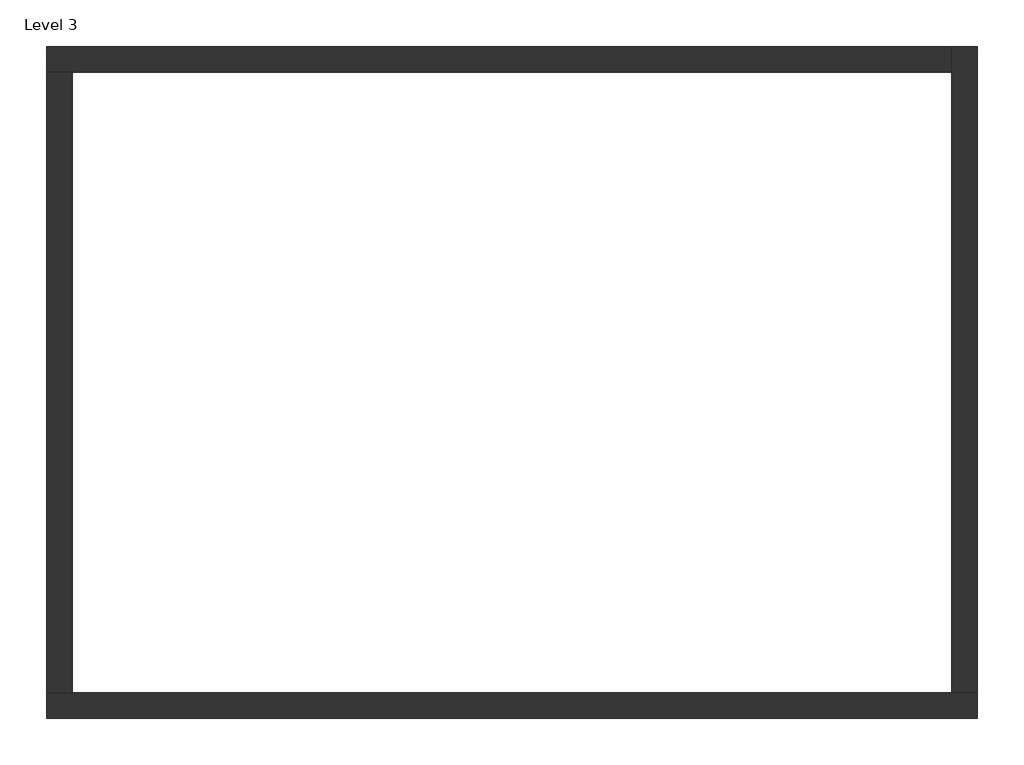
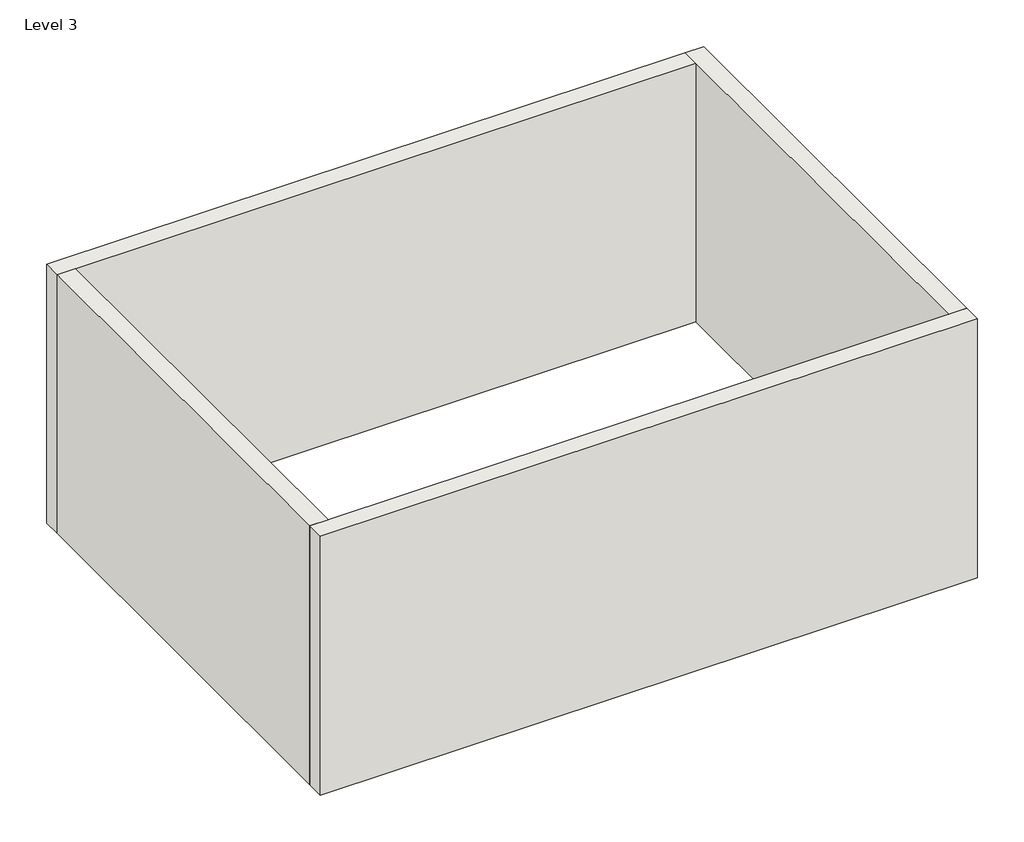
# One storey: 4 walls.
"""IFC4 building model written with IfcOpenShell, lengths in millimetres."""

from ifc_helpers import new_model, si_unit, frame, origin, place, context, project, spatial, polyline, outline, extrude, faceted_brep, element, save

model = new_model("IFC4")

# Units and contexts
model_context = context("Model", 3, world=origin())
ifc_project = project(units=[si_unit("LENGTHUNIT", "METRE", prefix="MILLI")], contexts=[model_context])

# Site, building, storey
site = spatial("IfcSite", under=ifc_project)
building = spatial("IfcBuilding", under=site)
storey = spatial("IfcBuildingStorey", under=building, Name="Level 3", Elevation=6000.0)

# Walls
placement = place(None, origin())
element("IfcWall", 1, ObjectType="Generic - 200mm", at=placement, inside=storey, context=model_context, shape_type="Brep", body=[
    faceted_brep([(-10736.9407541, 3393.1169333, 6000.0), (-3536.9407541, 3393.1169333, 6000.0), (-3536.9407541, 3393.1169333, 9000.0), (-10736.9407541, 3393.1169333, 9000.0), (-10736.9407541, 3593.1169333, 6000.0), (-10736.9407541, 3593.1169333, 9000.0), (-10536.9407541, 3593.1169333, 9000.0), (-3736.9407541, 3593.1169333, 9000.0), (-3536.9407541, 3593.1169333, 9000.0), (-3536.9407541, 3593.1169333, 6000.0), (-3736.9407541, 3593.1169333, 6000.0), (-10536.9407541, 3593.1169333, 6000.0)], [[[0, 1, 2, 3]], [[4, 5, 6, 7, 8, 9, 10, 11]], [[1, 0, 4, 11, 10, 9]], [[3, 2, 8, 7, 6, 5]], [[2, 1, 9, 8]], [[0, 3, 5, 4]]]),
])
element("IfcWall", 2, ObjectType="Generic - 200mm", at=placement, inside=storey, context=model_context, shape_type="Brep", body=[
    faceted_brep([(-3536.9407541, 3593.1169333, 6000.0), (-3536.9407541, 8593.1169333, 6000.0), (-3536.9407541, 8593.1169333, 9000.0), (-3536.9407541, 3593.1169333, 9000.0), (-3736.9407541, 3593.1169333, 6000.0), (-3736.9407541, 3593.1169333, 9000.0), (-3736.9407541, 8393.1169333, 9000.0), (-3736.9407541, 8593.1169333, 9000.0), (-3736.9407541, 8593.1169333, 6000.0), (-3736.9407541, 8393.1169333, 6000.0)], [[[0, 1, 2, 3]], [[4, 5, 6, 7, 8, 9]], [[1, 0, 4, 9, 8]], [[3, 2, 7, 6, 5]], [[0, 3, 5, 4]], [[2, 1, 8, 7]]]),
])
element("IfcWall", 3, ObjectType="Generic - 200mm", at=placement, inside=storey, context=model_context, shape_type="Brep", body=[
    faceted_brep([(-3736.9407541, 8593.1169333, 6000.0), (-10736.9407541, 8593.1169333, 6000.0), (-10736.9407541, 8593.1169333, 9000.0), (-3736.9407541, 8593.1169333, 9000.0), (-3736.9407541, 8393.1169333, 6000.0), (-3736.9407541, 8393.1169333, 9000.0), (-10536.9407541, 8393.1169333, 9000.0), (-10736.9407541, 8393.1169333, 9000.0), (-10736.9407541, 8393.1169333, 6000.0), (-10536.9407541, 8393.1169333, 6000.0)], [[[0, 1, 2, 3]], [[4, 5, 6, 7, 8, 9]], [[1, 0, 4, 9, 8]], [[3, 2, 7, 6, 5]], [[0, 3, 5, 4]], [[2, 1, 8, 7]]]),
])
element("IfcWall", 4, ObjectType="Generic - 200mm", at=placement, inside=storey, context=model_context, shape_type="SweptSolid", body=[
    extrude(outline(polyline([(-10736.9407541, 3593.1169333), (-10736.9407541, 8393.1169333), (-10536.9407541, 8393.1169333), (-10536.9407541, 3593.1169333), (-10736.9407541, 3593.1169333)])), frame((0.0, 0.0, 6000.0), z_axis=(0.0, 0.0, 1.0), x_axis=(1.0, 0.0, 0.0)), (0.0, 0.0, 1.0), 3000.0),
])

save(model, "model.ifc")
